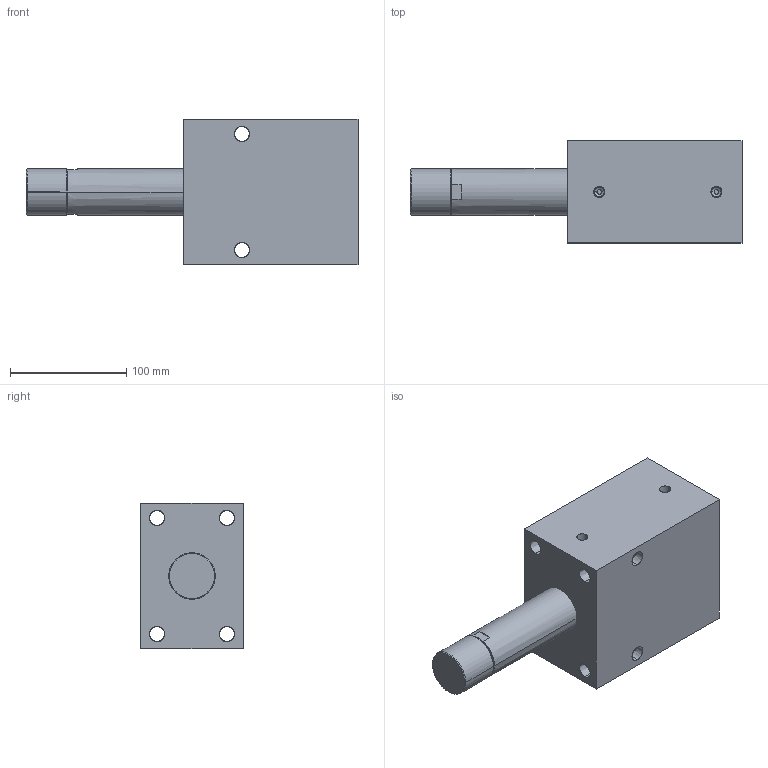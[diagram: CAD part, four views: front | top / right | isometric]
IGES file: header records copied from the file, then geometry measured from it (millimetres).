
Start section: SolidWorks IGES file using analytic representation for surfaces
Global section: file name: C:\Documents and Settings\rajib\Desktop\Rajib\BLOCK CYLINDER HYDRAULIC\0601-0606\IGS 0601-0608\0607.IGS; native system: SolidWorks 2007; preprocessor: SolidWorks 2007; author: rajib; date: 110121.105443; units: millimetre
Bounding box: 286 x 88 x 125 mm (x, y, z)
Surface area: 136131.3 mm2 (no closed solid volume)
Topology: 0 solids, 0 shells, 76 faces, 1856 edges, 1856 vertices
Faces by surface type: revolution 54, bspline 22
